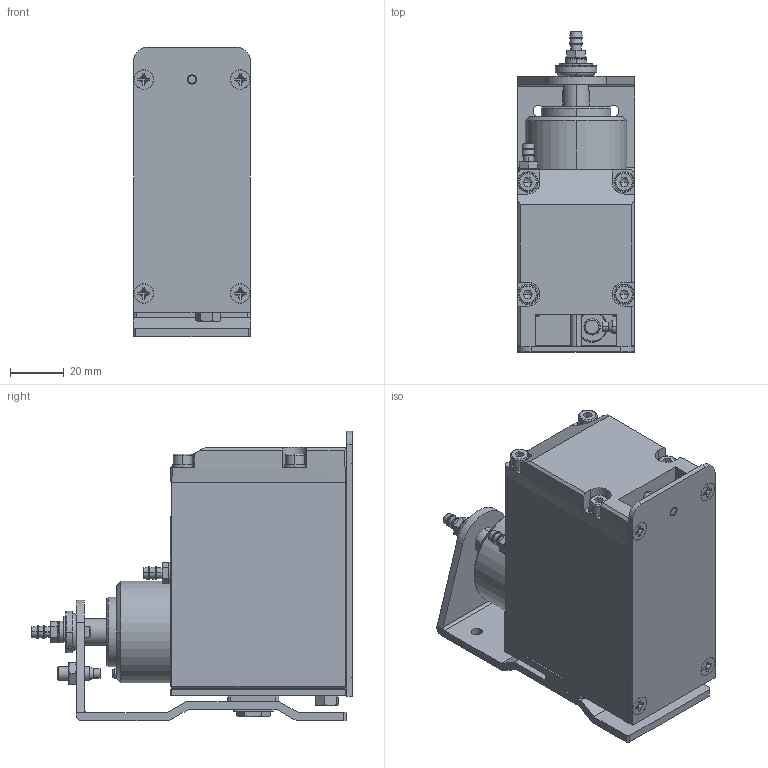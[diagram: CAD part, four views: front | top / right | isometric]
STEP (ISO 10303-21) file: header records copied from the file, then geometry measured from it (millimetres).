
FILE_DESCRIPTION (( 'STEP AP214' ), '1' );
FILE_NAME ('GT-NT20.STEP', '2019-11-27T09:04:22', ( '微软用户' ), ( '微软中国' ), 'SwSTEP 2.0', 'SolidWorks 2016', '' );
FILE_SCHEMA (( 'AUTOMOTIVE_DESIGN' ));
Length unit declared in the file: millimetre
Products named in the file (1): GT-NT20
Bounding box: 44 x 119.8 x 108.1 mm (x, y, z)
Surface area: 67620.8 mm2 (no closed solid volume)
Topology: 0 solids, 128 shells, 1230 faces, 3170 edges, 2134 vertices
Faces by surface type: plane 567, cylinder 360, bspline 187, cone 88, torus 28
Entity records: 56879 total; most frequent: CARTESIAN_POINT 21528, ORIENTED_EDGE 5795, DIRECTION 5258, EDGE_CURVE 3134, VERTEX_POINT 2134, AXIS2_PLACEMENT_3D 1976, EDGE_LOOP 1385, LINE 1306
